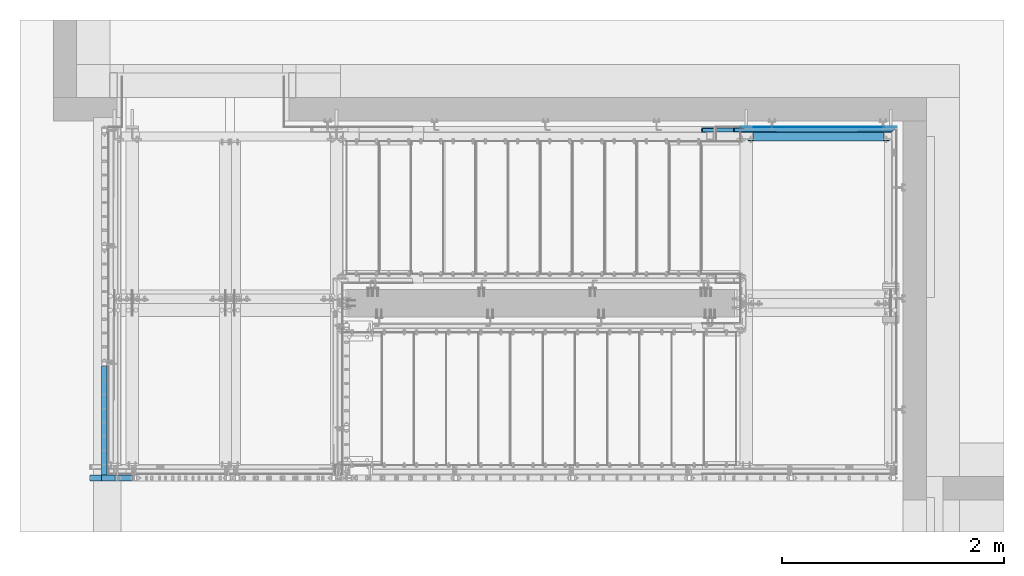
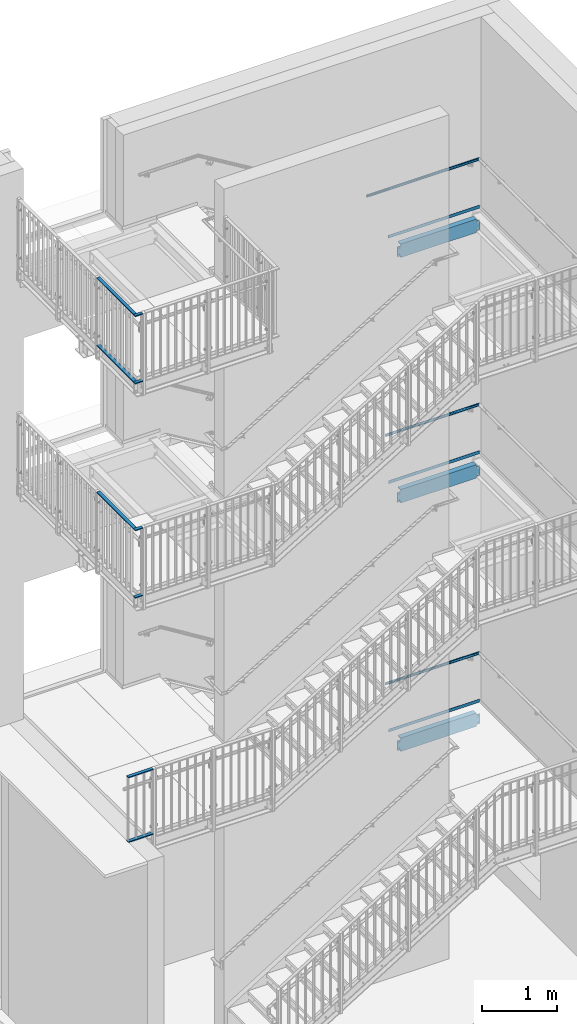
# One storey, part 39 of 410: 18 beams, 24 openings.
"""IFC2X3 building model written with IfcOpenShell, lengths in millimetres."""

from ifc_helpers import new_model, entity, si_unit, converted_unit, point, frame, frame_2d, origin, origin_with_axes, origin_2d, origin_2d_with_axis, place, context, project, spatial, circle_curve, line_curve, trimmed, segment, composite_curve, rectangle, circle, hollow_circle, u_section, outline, extrude, clip, halfspace, material, element, save


model = new_model("IFC2X3")

# Units and contexts
model_context = context("Model", 3, precision=1e-09, world=origin_with_axes())
ifc_project = project(units=[si_unit("LENGTHUNIT", "METRE", prefix="MILLI"), si_unit("AREAUNIT", "SQUARE_METRE"), si_unit("VOLUMEUNIT", "CUBIC_METRE"), converted_unit("PLANEANGLEUNIT", "DEGREE", entity("IfcPlaneAngleMeasure", 0.01745329), si_unit("PLANEANGLEUNIT", "RADIAN"), dimensions=[0, 0, 0, 0, 0, 0, 0])], contexts=[model_context])

# Site, building, storey
site_placement = place(None, origin_with_axes())
site = spatial("IfcSite", under=ifc_project, at=site_placement, Name="mKR Teilneubau & Sanierung BA1 - Ostfildern", CompositionType="ELEMENT")
building_placement = place(site_placement, origin_with_axes())
building = spatial("IfcBuilding", under=site, at=building_placement, Name="Struktur 1", CompositionType="ELEMENT")
storey_placement = place(building_placement, origin_with_axes())
storey = spatial("IfcBuildingStorey", under=building, at=storey_placement, Name="Default Storey", CompositionType="ELEMENT", Elevation=0.0)

# Beam, openings
ifc_material = material(Name="S235JR")
beam_1_placement = place(None, frame((3167.051468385, 18461.399999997, 1743.0434785), z_axis=(1.0, 0.0, 0.0), x_axis=(0.0, 1.0, 0.0)))
beam_1 = element("IfcBeam", 1, at=beam_1_placement, inside=storey, material=ifc_material, Name="-", ObjectType="-", context=model_context, shape_type="Clipping", body=[
    clip(extrude(u_section(Depth=220.0, FlangeWidth=80.0, WebThickness=9.0, FlangeThickness=12.5, FilletRadius=12.5, EdgeRadius=6.0, FlangeSlope=4.574, at=frame_2d((18.6, 0.0))), origin(), (0.0, 0.0, -1.0), 1501.146999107), halfspace(frame((-18461.399999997, -1743.0434785, -1274.099), z_axis=(0.0, 0.0, 1.0), x_axis=(1.0, 0.0, 0.0)), True)),
])
opening_1_placement = place(beam_1_placement, frame((-1481.4, 80.000000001, -1227.05), z_axis=(1.0, 0.0, 0.0), x_axis=(0.0, 0.0, -1.0)))
element("IfcOpeningElement", 2, at=opening_1_placement, cuts=beam_1, ObjectType="Opening", context=model_context, shape_type="SweptSolid", body=[
    extrude(outline(composite_curve([segment(trimmed(line_curve((47.85, 0.0), (0.0, 1.0), 30.799999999), [point((47.85, 0.0))], [point((47.85, 30.799999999))], True, "CARTESIAN"), True, "CONTINUOUS"), segment(trimmed(line_curve((47.85, 30.799999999), (-1.0, 0.0), 52.85), [point((47.85, 30.799999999))], [point((-5.0, 30.799999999))], True, "CARTESIAN"), True, "CONTINUOUS"), segment(trimmed(line_curve((-5.0, 30.799999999), (0.0, -1.0), 25.799999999), [point((-5.0, 30.799999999))], [point((-5.0, 5.0))], True, "CARTESIAN"), True, "CONTINUOUS"), segment(trimmed(circle_curve(frame_2d((0.0, 5.0), x_axis=(1.0, 0.0)), 5.0), [point((-5.0, 5.0))], [point((0.0, 0.0))], True, "CARTESIAN"), True, "CONTINUOUS"), segment(trimmed(line_curve((0.0, 0.0), (1.0, 0.0), 47.85), [point((0.0, 0.0))], [point((47.85, 0.0))], True, "CARTESIAN"), True, "CONTINUOUS")], self_intersect=False)), origin(), (0.0, 0.0, 1.0), 3000.0),
])
opening_2_placement = place(beam_1_placement, frame((1518.6, -79.999999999, -1227.05), z_axis=(-1.0, 0.0, 0.0), x_axis=(0.0, 0.0, 1.0)))
element("IfcOpeningElement", 3, at=opening_2_placement, cuts=beam_1, ObjectType="Opening", context=model_context, shape_type="SweptSolid", body=[
    extrude(outline(composite_curve([segment(trimmed(line_curve((-47.85, 0.0), (0.0, -1.0), 30.800000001), [point((-47.85, 0.0))], [point((-47.85, -30.800000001))], True, "CARTESIAN"), True, "CONTINUOUS"), segment(trimmed(line_curve((-47.85, -30.800000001), (1.0, 0.0), 52.85), [point((-47.85, -30.800000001))], [point((5.0, -30.800000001))], True, "CARTESIAN"), True, "CONTINUOUS"), segment(trimmed(line_curve((5.0, -30.800000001), (0.0, 1.0), 25.800000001), [point((5.0, -30.800000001))], [point((5.0, -5.0))], True, "CARTESIAN"), True, "CONTINUOUS"), segment(trimmed(circle_curve(frame_2d((0.0, -5.0), x_axis=(1.0, 0.0)), 5.0), [point((5.0, -5.0))], [point((0.0, 0.0))], True, "CARTESIAN"), True, "CONTINUOUS"), segment(trimmed(line_curve((0.0, 0.0), (-1.0, 0.0), 47.85), [point((0.0, 0.0))], [point((-47.85, 0.0))], True, "CARTESIAN"), True, "CONTINUOUS")], self_intersect=False)), origin(), (0.0, 0.0, 1.0), 3000.0),
])
opening_3_placement = place(beam_1_placement, frame((-121.5, 110.0, 0.0), z_axis=(1.0, 0.0, 0.0), x_axis=(0.0, 0.0, -1.0)))
element("IfcOpeningElement", 4, at=opening_3_placement, cuts=beam_1, ObjectType="Opening", context=model_context, shape_type="SweptSolid", body=[
    extrude(outline(composite_curve([segment(trimmed(circle_curve(frame_2d((-27.032911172, -244.269332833), x_axis=(1.0, 0.0)), 5.0), [point((-32.032911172, -244.269332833))], [point((-27.032911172, -249.269332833))], True, "CARTESIAN"), True, "CONTINUOUS"), segment(trimmed(line_curve((-27.032911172, -249.269332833), (1.0, 0.0), 74.083911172), [point((-27.032911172, -249.269332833))], [point((47.051, -249.269332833))], True, "CARTESIAN"), True, "CONTINUOUS"), segment(trimmed(circle_curve(frame_2d((47.051, -244.269332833), x_axis=(1.0, 0.0)), 5.0), [point((47.051, -249.269332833))], [point((52.051, -244.269332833))], True, "CARTESIAN"), True, "CONTINUOUS"), segment(trimmed(line_curve((52.051, -244.269332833), (0.0, 1.0), 49.270332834), [point((52.051, -244.269332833))], [point((52.051, -194.998999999))], True, "CARTESIAN"), True, "CONTINUOUS"), segment(trimmed(circle_curve(frame_2d((47.051, -194.998999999), x_axis=(1.0, 0.0)), 5.0), [point((52.051, -194.998999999))], [point((47.051, -189.998999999))], True, "CARTESIAN"), True, "CONTINUOUS"), segment(trimmed(line_curve((47.051, -189.998999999), (-1.0, 0.0), 74.083911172), [point((47.051, -189.998999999))], [point((-27.032911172, -189.998999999))], True, "CARTESIAN"), True, "CONTINUOUS"), segment(trimmed(circle_curve(frame_2d((-27.032911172, -194.998999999), x_axis=(1.0, 0.0)), 5.0), [point((-27.032911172, -189.998999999))], [point((-32.032911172, -194.998999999))], True, "CARTESIAN"), True, "CONTINUOUS"), segment(trimmed(line_curve((-32.032911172, -194.998999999), (0.0, -1.0), 49.270332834), [point((-32.032911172, -194.998999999))], [point((-32.032911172, -244.269332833))], True, "CARTESIAN"), True, "CONTINUOUS")], self_intersect=False)), origin(), (0.0, 0.0, 1.0), 280.2),
])
opening_4_placement = place(beam_1_placement, frame((-121.5, 110.0, 0.0), z_axis=(1.0, 0.0, 0.0), x_axis=(0.0, 0.0, -1.0)))
element("IfcOpeningElement", 5, at=opening_4_placement, cuts=beam_1, ObjectType="Opening", context=model_context, shape_type="SweptSolid", body=[
    extrude(outline(composite_curve([segment(trimmed(circle_curve(frame_2d((-22.288575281, -25.000999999), x_axis=(1.0, 0.0)), 5.0), [point((-27.288575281, -25.000999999))], [point((-22.288575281, -30.000999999))], True, "CARTESIAN"), True, "CONTINUOUS"), segment(trimmed(line_curve((-22.288575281, -30.000999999), (1.0, 0.0), 69.339575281), [point((-22.288575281, -30.000999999))], [point((47.051, -30.000999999))], True, "CARTESIAN"), True, "CONTINUOUS"), segment(trimmed(circle_curve(frame_2d((47.051, -25.000999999), x_axis=(1.0, 0.0)), 5.0), [point((47.051, -30.000999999))], [point((52.051, -25.000999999))], True, "CARTESIAN"), True, "CONTINUOUS"), segment(trimmed(line_curve((52.051, -25.000999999), (0.0, 1.0), 50.889831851), [point((52.051, -25.000999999))], [point((52.051, 25.888831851))], True, "CARTESIAN"), True, "CONTINUOUS"), segment(trimmed(circle_curve(frame_2d((47.051, 25.888831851), x_axis=(1.0, 0.0)), 5.0), [point((52.051, 25.888831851))], [point((47.051, 30.888831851))], True, "CARTESIAN"), True, "CONTINUOUS"), segment(trimmed(line_curve((47.051, 30.888831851), (-1.0, 0.0), 69.339575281), [point((47.051, 30.888831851))], [point((-22.288575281, 30.888831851))], True, "CARTESIAN"), True, "CONTINUOUS"), segment(trimmed(circle_curve(frame_2d((-22.288575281, 25.888831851), x_axis=(1.0, 0.0)), 5.0), [point((-22.288575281, 30.888831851))], [point((-27.288575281, 25.888831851))], True, "CARTESIAN"), True, "CONTINUOUS"), segment(trimmed(line_curve((-27.288575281, 25.888831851), (0.0, -1.0), 50.889831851), [point((-27.288575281, 25.888831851))], [point((-27.288575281, -25.000999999))], True, "CARTESIAN"), True, "CONTINUOUS")], self_intersect=False)), origin(), (0.0, 0.0, 1.0), 280.2),
])
opening_5_placement = place(beam_1_placement, frame((-11.9, -50.0, -1252.101), z_axis=(1.0, 0.0, 0.0), x_axis=(0.0, 1.0, 0.0)))
element("IfcOpeningElement", 6, at=opening_5_placement, cuts=beam_1, ObjectType="Opening", context=model_context, shape_type="SweptSolid", body=[
    extrude(circle(Radius=9.001, at=frame_2d((0.0, 9.001), x_axis=(1.0, 0.0))), origin(), (0.0, 0.0, -1.0), 10.0),
])
opening_6_placement = place(beam_1_placement, frame((-11.9, 50.0, -1252.101), z_axis=(1.0, 0.0, 0.0), x_axis=(0.0, 1.0, 0.0)))
element("IfcOpeningElement", 7, at=opening_6_placement, cuts=beam_1, ObjectType="Opening", context=model_context, shape_type="SweptSolid", body=[
    extrude(circle(Radius=9.001, at=frame_2d((0.0, 9.001), x_axis=(1.0, 0.0))), origin(), (0.0, 0.0, -1.0), 10.0),
])
opening_7_placement = place(beam_1_placement, frame((-11.9, 50.0, -31.0), z_axis=(-1.0, 0.0, 0.0), x_axis=(0.0, 0.0, -1.0)))
element("IfcOpeningElement", 8, at=opening_7_placement, cuts=beam_1, ObjectType="Opening", context=model_context, shape_type="SweptSolid", body=[
    extrude(circle(Radius=9.001, at=frame_2d((0.0, 100.0), x_axis=(1.0, 0.0))), origin(), (0.0, 0.0, 1.0), 10.0),
])
opening_8_placement = place(beam_1_placement, frame((-11.9, 50.0, -31.0), z_axis=(-1.0, 0.0, 0.0), x_axis=(0.0, 0.0, -1.0)))
element("IfcOpeningElement", 9, at=opening_8_placement, cuts=beam_1, ObjectType="Opening", context=model_context, shape_type="SweptSolid", body=[
    extrude(circle(Radius=9.001, at=origin_2d_with_axis()), origin(), (0.0, 0.0, 1.0), 10.0),
])

beam_2_placement = place(None, frame((3167.051468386, 18461.399999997, -2315.6), z_axis=(1.0, 0.0, 0.0), x_axis=(0.0, 1.0, 0.0)))
beam_2 = element("IfcBeam", 10, at=beam_2_placement, inside=storey, material=ifc_material, Name="-", ObjectType="-", context=model_context, shape_type="Clipping", body=[
    clip(extrude(u_section(Depth=220.0, FlangeWidth=80.0, WebThickness=9.0, FlangeThickness=12.5, FilletRadius=12.5, EdgeRadius=6.0, FlangeSlope=4.574, at=frame_2d((18.6, 0.0))), origin(), (0.0, 0.0, -1.0), 1501.146999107), halfspace(frame((-18461.399999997, 2315.6, -1274.099), z_axis=(0.0, 0.0, 1.0), x_axis=(1.0, 0.0, 0.0)), True)),
])
opening_9_placement = place(beam_2_placement, frame((-1481.4, 80.000000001, -1227.05), z_axis=(1.0, 0.0, 0.0), x_axis=(0.0, 0.0, -1.0)))
element("IfcOpeningElement", 11, at=opening_9_placement, cuts=beam_2, ObjectType="Opening", context=model_context, shape_type="SweptSolid", body=[
    extrude(outline(composite_curve([segment(trimmed(line_curve((47.85, 0.0), (0.0, 1.0), 30.799999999), [point((47.85, 0.0))], [point((47.85, 30.799999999))], True, "CARTESIAN"), True, "CONTINUOUS"), segment(trimmed(line_curve((47.85, 30.799999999), (-1.0, 0.0), 52.85), [point((47.85, 30.799999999))], [point((-5.0, 30.799999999))], True, "CARTESIAN"), True, "CONTINUOUS"), segment(trimmed(line_curve((-5.0, 30.799999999), (0.0, -1.0), 25.799999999), [point((-5.0, 30.799999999))], [point((-5.0, 5.0))], True, "CARTESIAN"), True, "CONTINUOUS"), segment(trimmed(circle_curve(frame_2d((0.0, 5.0), x_axis=(1.0, 0.0)), 5.0), [point((-5.0, 5.0))], [point((0.0, 0.0))], True, "CARTESIAN"), True, "CONTINUOUS"), segment(trimmed(line_curve((0.0, 0.0), (1.0, 0.0), 47.85), [point((0.0, 0.0))], [point((47.85, 0.0))], True, "CARTESIAN"), True, "CONTINUOUS")], self_intersect=False)), origin(), (0.0, 0.0, 1.0), 3000.0),
])
opening_10_placement = place(beam_2_placement, frame((1518.6, -79.999999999, -1227.05), z_axis=(-1.0, 0.0, 0.0), x_axis=(0.0, 0.0, 1.0)))
element("IfcOpeningElement", 12, at=opening_10_placement, cuts=beam_2, ObjectType="Opening", context=model_context, shape_type="SweptSolid", body=[
    extrude(outline(composite_curve([segment(trimmed(line_curve((-47.85, 0.0), (0.0, -1.0), 30.800000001), [point((-47.85, 0.0))], [point((-47.85, -30.800000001))], True, "CARTESIAN"), True, "CONTINUOUS"), segment(trimmed(line_curve((-47.85, -30.800000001), (1.0, 0.0), 52.85), [point((-47.85, -30.800000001))], [point((5.0, -30.800000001))], True, "CARTESIAN"), True, "CONTINUOUS"), segment(trimmed(line_curve((5.0, -30.800000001), (0.0, 1.0), 25.800000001), [point((5.0, -30.800000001))], [point((5.0, -5.0))], True, "CARTESIAN"), True, "CONTINUOUS"), segment(trimmed(circle_curve(frame_2d((0.0, -5.0), x_axis=(1.0, 0.0)), 5.0), [point((5.0, -5.0))], [point((0.0, 0.0))], True, "CARTESIAN"), True, "CONTINUOUS"), segment(trimmed(line_curve((0.0, 0.0), (-1.0, 0.0), 47.85), [point((0.0, 0.0))], [point((-47.85, 0.0))], True, "CARTESIAN"), True, "CONTINUOUS")], self_intersect=False)), origin(), (0.0, 0.0, 1.0), 3000.0),
])
opening_11_placement = place(beam_2_placement, frame((-121.5, 110.0, 0.0), z_axis=(1.0, 0.0, 0.0), x_axis=(0.0, 0.0, -1.0)))
element("IfcOpeningElement", 13, at=opening_11_placement, cuts=beam_2, ObjectType="Opening", context=model_context, shape_type="SweptSolid", body=[
    extrude(outline(composite_curve([segment(trimmed(circle_curve(frame_2d((-27.032911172, -244.269332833), x_axis=(1.0, 0.0)), 5.0), [point((-32.032911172, -244.269332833))], [point((-27.032911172, -249.269332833))], True, "CARTESIAN"), True, "CONTINUOUS"), segment(trimmed(line_curve((-27.032911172, -249.269332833), (1.0, 0.0), 74.083911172), [point((-27.032911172, -249.269332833))], [point((47.051, -249.269332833))], True, "CARTESIAN"), True, "CONTINUOUS"), segment(trimmed(circle_curve(frame_2d((47.051, -244.269332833), x_axis=(1.0, 0.0)), 5.0), [point((47.051, -249.269332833))], [point((52.051, -244.269332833))], True, "CARTESIAN"), True, "CONTINUOUS"), segment(trimmed(line_curve((52.051, -244.269332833), (0.0, 1.0), 49.270332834), [point((52.051, -244.269332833))], [point((52.051, -194.998999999))], True, "CARTESIAN"), True, "CONTINUOUS"), segment(trimmed(circle_curve(frame_2d((47.051, -194.998999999), x_axis=(1.0, 0.0)), 5.0), [point((52.051, -194.998999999))], [point((47.051, -189.998999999))], True, "CARTESIAN"), True, "CONTINUOUS"), segment(trimmed(line_curve((47.051, -189.998999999), (-1.0, 0.0), 74.083911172), [point((47.051, -189.998999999))], [point((-27.032911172, -189.998999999))], True, "CARTESIAN"), True, "CONTINUOUS"), segment(trimmed(circle_curve(frame_2d((-27.032911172, -194.998999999), x_axis=(1.0, 0.0)), 5.0), [point((-27.032911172, -189.998999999))], [point((-32.032911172, -194.998999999))], True, "CARTESIAN"), True, "CONTINUOUS"), segment(trimmed(line_curve((-32.032911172, -194.998999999), (0.0, -1.0), 49.270332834), [point((-32.032911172, -194.998999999))], [point((-32.032911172, -244.269332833))], True, "CARTESIAN"), True, "CONTINUOUS")], self_intersect=False)), origin(), (0.0, 0.0, 1.0), 280.2),
])
opening_12_placement = place(beam_2_placement, frame((-121.5, 110.0, 0.0), z_axis=(1.0, 0.0, 0.0), x_axis=(0.0, 0.0, -1.0)))
element("IfcOpeningElement", 14, at=opening_12_placement, cuts=beam_2, ObjectType="Opening", context=model_context, shape_type="SweptSolid", body=[
    extrude(outline(composite_curve([segment(trimmed(circle_curve(frame_2d((-22.288575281, -25.000999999), x_axis=(1.0, 0.0)), 5.0), [point((-27.288575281, -25.000999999))], [point((-22.288575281, -30.000999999))], True, "CARTESIAN"), True, "CONTINUOUS"), segment(trimmed(line_curve((-22.288575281, -30.000999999), (1.0, 0.0), 69.339575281), [point((-22.288575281, -30.000999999))], [point((47.051, -30.000999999))], True, "CARTESIAN"), True, "CONTINUOUS"), segment(trimmed(circle_curve(frame_2d((47.051, -25.000999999), x_axis=(1.0, 0.0)), 5.0), [point((47.051, -30.000999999))], [point((52.051, -25.000999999))], True, "CARTESIAN"), True, "CONTINUOUS"), segment(trimmed(line_curve((52.051, -25.000999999), (0.0, 1.0), 50.889831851), [point((52.051, -25.000999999))], [point((52.051, 25.888831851))], True, "CARTESIAN"), True, "CONTINUOUS"), segment(trimmed(circle_curve(frame_2d((47.051, 25.888831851), x_axis=(1.0, 0.0)), 5.0), [point((52.051, 25.888831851))], [point((47.051, 30.888831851))], True, "CARTESIAN"), True, "CONTINUOUS"), segment(trimmed(line_curve((47.051, 30.888831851), (-1.0, 0.0), 69.339575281), [point((47.051, 30.888831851))], [point((-22.288575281, 30.888831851))], True, "CARTESIAN"), True, "CONTINUOUS"), segment(trimmed(circle_curve(frame_2d((-22.288575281, 25.888831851), x_axis=(1.0, 0.0)), 5.0), [point((-22.288575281, 30.888831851))], [point((-27.288575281, 25.888831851))], True, "CARTESIAN"), True, "CONTINUOUS"), segment(trimmed(line_curve((-27.288575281, 25.888831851), (0.0, -1.0), 50.889831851), [point((-27.288575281, 25.888831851))], [point((-27.288575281, -25.000999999))], True, "CARTESIAN"), True, "CONTINUOUS")], self_intersect=False)), origin(), (0.0, 0.0, 1.0), 280.2),
])
opening_13_placement = place(beam_2_placement, frame((-11.9, 50.0, -31.0), z_axis=(-1.0, 0.0, 0.0), x_axis=(0.0, 0.0, -1.0)))
element("IfcOpeningElement", 15, at=opening_13_placement, cuts=beam_2, ObjectType="Opening", context=model_context, shape_type="SweptSolid", body=[
    extrude(circle(Radius=9.001, at=frame_2d((0.0, 100.0), x_axis=(1.0, 0.0))), origin(), (0.0, 0.0, 1.0), 10.0),
])
opening_14_placement = place(beam_2_placement, frame((-11.9, 50.0, -31.0), z_axis=(-1.0, 0.0, 0.0), x_axis=(0.0, 0.0, -1.0)))
element("IfcOpeningElement", 16, at=opening_14_placement, cuts=beam_2, ObjectType="Opening", context=model_context, shape_type="SweptSolid", body=[
    extrude(circle(Radius=9.001, at=origin_2d_with_axis()), origin(), (0.0, 0.0, 1.0), 10.0),
])
opening_15_placement = place(beam_2_placement, frame((-11.9, -50.0, -1252.101), z_axis=(1.0, 0.0, 0.0), x_axis=(0.0, 1.0, 0.0)))
element("IfcOpeningElement", 17, at=opening_15_placement, cuts=beam_2, ObjectType="Opening", context=model_context, shape_type="SweptSolid", body=[
    extrude(circle(Radius=9.001, at=frame_2d((0.0, 9.001), x_axis=(1.0, 0.0))), origin(), (0.0, 0.0, -1.0), 10.0),
])
opening_16_placement = place(beam_2_placement, frame((-11.9, 50.0, -1252.101), z_axis=(1.0, 0.0, 0.0), x_axis=(0.0, 1.0, 0.0)))
element("IfcOpeningElement", 18, at=opening_16_placement, cuts=beam_2, ObjectType="Opening", context=model_context, shape_type="SweptSolid", body=[
    extrude(circle(Radius=9.001, at=frame_2d((0.0, 9.001), x_axis=(1.0, 0.0))), origin(), (0.0, 0.0, -1.0), 10.0),
])

# Beams
for number, where, z_axis, x_axis in (
    (19, (-3805.49853167, 15405.999999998, 5092.5), (-1.0, 0.0, 0.0), (0.0, 0.0, -1.0)),
    (20, (-3924.9485317, 15405.999999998, 3992.5), (1.0, 0.0, 0.0), (0.0, 0.0, 1.0)),
    (21, (-3805.49853167, 15405.999999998, 8592.5), (-1.0, 0.0, 0.0), (0.0, 0.0, -1.0)),
    (22, (-3924.9485317, 15405.999999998, 7492.5), (1.0, 0.0, 0.0), (0.0, 0.0, 1.0)),
):
    element("IfcBeam", number, at=place(None, frame(where, z_axis=z_axis, x_axis=x_axis)), inside=storey, material=ifc_material, Name="-", ObjectType="-", context=model_context, shape_type="SweptSolid", body=[
        extrude(rectangle(XDim=15.0, YDim=50.0, at=origin_2d()), origin(), (0.0, 0.0, 1.0), 119.450000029),
    ])
for number, where, z_axis, x_axis in (
    (23, (-3899.9485317, 16414.499999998, 8592.500007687), (0.0, 1.0, 0.0), (0.0, 0.0, -1.0)),
    (24, (-3899.9485317, 15430.999999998, 7492.500000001), (0.0, -1.0, 0.0), (0.0, 0.0, 1.0)),
):
    element("IfcBeam", number, at=place(None, frame(where, z_axis=z_axis, x_axis=x_axis)), inside=storey, material=ifc_material, Name="-", ObjectType="-", context=model_context, shape_type="SweptSolid", body=[
        extrude(rectangle(XDim=15.0, YDim=50.0, at=origin_2d()), origin(), (0.0, 0.0, -1.0), 983.5),
    ])
for number, where, z_axis, x_axis in (
    (25, (-4030.78424607, 15405.999999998, 1092.5), (-1.0, 0.0, 0.0), (0.0, 0.0, -1.0)),
    (26, (-3645.49853167, 15405.999999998, 37.5), (1.0, 0.0, 0.0), (0.0, 0.0, 1.0)),
):
    element("IfcBeam", number, at=place(None, frame(where, z_axis=z_axis, x_axis=x_axis)), inside=storey, material=ifc_material, Name="-", ObjectType="-", context=model_context, shape_type="SweptSolid", body=[
        extrude(rectangle(XDim=15.0, YDim=50.0, at=origin_2d()), origin(), (0.0, 0.0, -1.0), 385.2857144),
    ])

# Beam, openings
beam_3_placement = place(None, frame((3167.051468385, 18461.399999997, 5755.0), z_axis=(1.0, 0.0, 0.0), x_axis=(0.0, 1.0, 0.0)))
beam_3 = element("IfcBeam", 27, at=beam_3_placement, inside=storey, material=ifc_material, Name="-", ObjectType="-", context=model_context, shape_type="Clipping", body=[
    clip(extrude(u_section(Depth=220.0, FlangeWidth=80.0, WebThickness=9.0, FlangeThickness=12.5, FilletRadius=12.5, EdgeRadius=6.0, FlangeSlope=4.574, at=frame_2d((18.6, 0.0))), origin(), (0.0, 0.0, -1.0), 1501.146999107), halfspace(frame((-18461.399999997, -5755.0, -1274.099), z_axis=(0.0, 0.0, 1.0), x_axis=(1.0, 0.0, 0.0)), True)),
])
opening_17_placement = place(beam_3_placement, frame((-1481.4, 80.000000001, -1227.05), z_axis=(1.0, 0.0, 0.0), x_axis=(0.0, 0.0, -1.0)))
element("IfcOpeningElement", 28, at=opening_17_placement, cuts=beam_3, ObjectType="Opening", context=model_context, shape_type="SweptSolid", body=[
    extrude(outline(composite_curve([segment(trimmed(line_curve((47.85, 0.0), (0.0, 1.0), 30.799999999), [point((47.85, 0.0))], [point((47.85, 30.799999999))], True, "CARTESIAN"), True, "CONTINUOUS"), segment(trimmed(line_curve((47.85, 30.799999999), (-1.0, 0.0), 52.85), [point((47.85, 30.799999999))], [point((-5.0, 30.799999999))], True, "CARTESIAN"), True, "CONTINUOUS"), segment(trimmed(line_curve((-5.0, 30.799999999), (0.0, -1.0), 25.799999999), [point((-5.0, 30.799999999))], [point((-5.0, 5.0))], True, "CARTESIAN"), True, "CONTINUOUS"), segment(trimmed(circle_curve(frame_2d((0.0, 5.0), x_axis=(1.0, 0.0)), 5.0), [point((-5.0, 5.0))], [point((0.0, 0.0))], True, "CARTESIAN"), True, "CONTINUOUS"), segment(trimmed(line_curve((0.0, 0.0), (1.0, 0.0), 47.85), [point((0.0, 0.0))], [point((47.85, 0.0))], True, "CARTESIAN"), True, "CONTINUOUS")], self_intersect=False)), origin(), (0.0, 0.0, 1.0), 3000.0),
])
opening_18_placement = place(beam_3_placement, frame((1518.6, -79.999999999, -1227.05), z_axis=(-1.0, 0.0, 0.0), x_axis=(0.0, 0.0, 1.0)))
element("IfcOpeningElement", 29, at=opening_18_placement, cuts=beam_3, ObjectType="Opening", context=model_context, shape_type="SweptSolid", body=[
    extrude(outline(composite_curve([segment(trimmed(line_curve((-47.85, 0.0), (0.0, -1.0), 30.800000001), [point((-47.85, 0.0))], [point((-47.85, -30.800000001))], True, "CARTESIAN"), True, "CONTINUOUS"), segment(trimmed(line_curve((-47.85, -30.800000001), (1.0, 0.0), 52.85), [point((-47.85, -30.800000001))], [point((5.0, -30.800000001))], True, "CARTESIAN"), True, "CONTINUOUS"), segment(trimmed(line_curve((5.0, -30.800000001), (0.0, 1.0), 25.800000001), [point((5.0, -30.800000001))], [point((5.0, -5.0))], True, "CARTESIAN"), True, "CONTINUOUS"), segment(trimmed(circle_curve(frame_2d((0.0, -5.0), x_axis=(1.0, 0.0)), 5.0), [point((5.0, -5.0))], [point((0.0, 0.0))], True, "CARTESIAN"), True, "CONTINUOUS"), segment(trimmed(line_curve((0.0, 0.0), (-1.0, 0.0), 47.85), [point((0.0, 0.0))], [point((-47.85, 0.0))], True, "CARTESIAN"), True, "CONTINUOUS")], self_intersect=False)), origin(), (0.0, 0.0, 1.0), 3000.0),
])
opening_19_placement = place(beam_3_placement, frame((-121.5, 110.0, 0.0), z_axis=(1.0, 0.0, 0.0), x_axis=(0.0, 0.0, -1.0)))
element("IfcOpeningElement", 30, at=opening_19_placement, cuts=beam_3, ObjectType="Opening", context=model_context, shape_type="SweptSolid", body=[
    extrude(outline(composite_curve([segment(trimmed(circle_curve(frame_2d((-27.032911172, -244.269332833), x_axis=(1.0, 0.0)), 5.0), [point((-32.032911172, -244.269332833))], [point((-27.032911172, -249.269332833))], True, "CARTESIAN"), True, "CONTINUOUS"), segment(trimmed(line_curve((-27.032911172, -249.269332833), (1.0, 0.0), 74.083911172), [point((-27.032911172, -249.269332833))], [point((47.051, -249.269332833))], True, "CARTESIAN"), True, "CONTINUOUS"), segment(trimmed(circle_curve(frame_2d((47.051, -244.269332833), x_axis=(1.0, 0.0)), 5.0), [point((47.051, -249.269332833))], [point((52.051, -244.269332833))], True, "CARTESIAN"), True, "CONTINUOUS"), segment(trimmed(line_curve((52.051, -244.269332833), (0.0, 1.0), 49.270332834), [point((52.051, -244.269332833))], [point((52.051, -194.998999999))], True, "CARTESIAN"), True, "CONTINUOUS"), segment(trimmed(circle_curve(frame_2d((47.051, -194.998999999), x_axis=(1.0, 0.0)), 5.0), [point((52.051, -194.998999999))], [point((47.051, -189.998999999))], True, "CARTESIAN"), True, "CONTINUOUS"), segment(trimmed(line_curve((47.051, -189.998999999), (-1.0, 0.0), 74.083911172), [point((47.051, -189.998999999))], [point((-27.032911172, -189.998999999))], True, "CARTESIAN"), True, "CONTINUOUS"), segment(trimmed(circle_curve(frame_2d((-27.032911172, -194.998999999), x_axis=(1.0, 0.0)), 5.0), [point((-27.032911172, -189.998999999))], [point((-32.032911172, -194.998999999))], True, "CARTESIAN"), True, "CONTINUOUS"), segment(trimmed(line_curve((-32.032911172, -194.998999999), (0.0, -1.0), 49.270332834), [point((-32.032911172, -194.998999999))], [point((-32.032911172, -244.269332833))], True, "CARTESIAN"), True, "CONTINUOUS")], self_intersect=False)), origin(), (0.0, 0.0, 1.0), 280.2),
])
opening_20_placement = place(beam_3_placement, frame((-121.5, 110.0, 0.0), z_axis=(1.0, 0.0, 0.0), x_axis=(0.0, 0.0, -1.0)))
element("IfcOpeningElement", 31, at=opening_20_placement, cuts=beam_3, ObjectType="Opening", context=model_context, shape_type="SweptSolid", body=[
    extrude(outline(composite_curve([segment(trimmed(circle_curve(frame_2d((-22.288575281, -25.000999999), x_axis=(1.0, 0.0)), 5.0), [point((-27.288575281, -25.000999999))], [point((-22.288575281, -30.000999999))], True, "CARTESIAN"), True, "CONTINUOUS"), segment(trimmed(line_curve((-22.288575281, -30.000999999), (1.0, 0.0), 69.339575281), [point((-22.288575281, -30.000999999))], [point((47.051, -30.000999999))], True, "CARTESIAN"), True, "CONTINUOUS"), segment(trimmed(circle_curve(frame_2d((47.051, -25.000999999), x_axis=(1.0, 0.0)), 5.0), [point((47.051, -30.000999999))], [point((52.051, -25.000999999))], True, "CARTESIAN"), True, "CONTINUOUS"), segment(trimmed(line_curve((52.051, -25.000999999), (0.0, 1.0), 50.889831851), [point((52.051, -25.000999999))], [point((52.051, 25.888831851))], True, "CARTESIAN"), True, "CONTINUOUS"), segment(trimmed(circle_curve(frame_2d((47.051, 25.888831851), x_axis=(1.0, 0.0)), 5.0), [point((52.051, 25.888831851))], [point((47.051, 30.888831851))], True, "CARTESIAN"), True, "CONTINUOUS"), segment(trimmed(line_curve((47.051, 30.888831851), (-1.0, 0.0), 69.339575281), [point((47.051, 30.888831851))], [point((-22.288575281, 30.888831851))], True, "CARTESIAN"), True, "CONTINUOUS"), segment(trimmed(circle_curve(frame_2d((-22.288575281, 25.888831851), x_axis=(1.0, 0.0)), 5.0), [point((-22.288575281, 30.888831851))], [point((-27.288575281, 25.888831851))], True, "CARTESIAN"), True, "CONTINUOUS"), segment(trimmed(line_curve((-27.288575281, 25.888831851), (0.0, -1.0), 50.889831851), [point((-27.288575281, 25.888831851))], [point((-27.288575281, -25.000999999))], True, "CARTESIAN"), True, "CONTINUOUS")], self_intersect=False)), origin(), (0.0, 0.0, 1.0), 280.2),
])
opening_21_placement = place(beam_3_placement, frame((-11.9, -50.0, -1252.101), z_axis=(1.0, 0.0, 0.0), x_axis=(0.0, 1.0, 0.0)))
element("IfcOpeningElement", 32, at=opening_21_placement, cuts=beam_3, ObjectType="Opening", context=model_context, shape_type="SweptSolid", body=[
    extrude(circle(Radius=9.001, at=frame_2d((0.0, 9.001), x_axis=(1.0, 0.0))), origin(), (0.0, 0.0, -1.0), 10.0),
])
opening_22_placement = place(beam_3_placement, frame((-11.9, 50.0, -1252.101), z_axis=(1.0, 0.0, 0.0), x_axis=(0.0, 1.0, 0.0)))
element("IfcOpeningElement", 33, at=opening_22_placement, cuts=beam_3, ObjectType="Opening", context=model_context, shape_type="SweptSolid", body=[
    extrude(circle(Radius=9.001, at=frame_2d((0.0, 9.001), x_axis=(1.0, 0.0))), origin(), (0.0, 0.0, -1.0), 10.0),
])
opening_23_placement = place(beam_3_placement, frame((-11.9, 50.0, -31.0), z_axis=(-1.0, 0.0, 0.0), x_axis=(0.0, 0.0, -1.0)))
element("IfcOpeningElement", 34, at=opening_23_placement, cuts=beam_3, ObjectType="Opening", context=model_context, shape_type="SweptSolid", body=[
    extrude(circle(Radius=9.001, at=frame_2d((0.0, 100.0), x_axis=(1.0, 0.0))), origin(), (0.0, 0.0, 1.0), 10.0),
])
opening_24_placement = place(beam_3_placement, frame((-11.9, 50.0, -31.0), z_axis=(-1.0, 0.0, 0.0), x_axis=(0.0, 0.0, -1.0)))
element("IfcOpeningElement", 35, at=opening_24_placement, cuts=beam_3, ObjectType="Opening", context=model_context, shape_type="SweptSolid", body=[
    extrude(circle(Radius=9.001, at=origin_2d_with_axis()), origin(), (0.0, 0.0, 1.0), 10.0),
])

# Beams
for number, where, z_axis, x_axis in (
    (36, (3231.001468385, 18567.999999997, 1938.0434785), (1.0, 0.0, 0.0), (0.0, 1.0, 0.0)),
    (37, (3231.001468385, 18567.999999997, -2120.6), (1.0, 0.0, 0.0), (0.0, 1.0, 0.0)),
):
    element("IfcBeam", number, at=place(None, frame(where, z_axis=z_axis, x_axis=x_axis)), inside=storey, material=ifc_material, Name="-", ObjectType="-", context=model_context, shape_type="SweptSolid", body=[
        extrude(rectangle(XDim=4.0, YDim=50.0, at=origin_2d()), origin(), (0.0, 0.0, -1.0), 1402.0),
    ])
beam_4_placement = place(None, frame((3231.001468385, 18567.999999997, 5950.0), z_axis=(1.0, 0.0, 0.0), x_axis=(0.0, 1.0, 0.0)))
element("IfcBeam", 38, at=beam_4_placement, inside=storey, material=ifc_material, Name="-", ObjectType="-", context=model_context, shape_type="SweptSolid", body=[
    extrude(rectangle(XDim=4.0, YDim=50.0, at=origin_2d()), origin(), (0.0, 0.0, -1.0), 1406.0),
])
beam_5_placement = place(None, frame((-3899.9485317, 16414.499999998, 5092.500007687), z_axis=(0.0, 1.0, 0.0), x_axis=(0.0, 0.0, -1.0)))
element("IfcBeam", 39, at=beam_5_placement, inside=storey, material=ifc_material, Name="-", ObjectType="-", context=model_context, shape_type="SweptSolid", body=[
    extrude(rectangle(XDim=15.0, YDim=50.0, at=origin_2d()), origin(), (0.0, 0.0, -1.0), 983.5),
])
beam_6_placement = place(None, frame((1447.976990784, 18539.999977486, 6753.800571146), z_axis=(-1.0, 0.0, 0.0), x_axis=(0.0, -1.0, 0.0)))
element("IfcBeam", 40, at=beam_6_placement, inside=storey, Name="-", ObjectType="-", context=model_context, shape_type="Clipping", body=[
    clip(clip(extrude(hollow_circle(Radius=21.2, WallThickness=3.2, at=origin_2d()), origin(), (0.0, 0.0, -1.0), 1804.422226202), halfspace(frame((18539.999977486, -6650.25999424, 1819.960293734), z_axis=(0.0, -0.268153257, -0.963376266), x_axis=(-1.0, 0.0, 0.0)), True)), halfspace(frame((10874.99889013, -6753.800571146, 9112.978078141), z_axis=(-0.707106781, 0.0, 0.707106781), x_axis=(0.707106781, 0.0, 0.707106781)), True)),
])
beam_7_placement = place(None, frame((3252.399216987, 18539.999999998, 2741.8434785), z_axis=(1.0, 0.0, 0.0), x_axis=(0.0, 1.0, 0.0)))
element("IfcBeam", 41, at=beam_7_placement, inside=storey, Name="-", ObjectType="-", context=model_context, shape_type="Clipping", body=[
    clip(clip(extrude(hollow_circle(Radius=21.2, WallThickness=3.2, at=origin_2d()), origin(), (0.0, 0.0, -1.0), 1514.377972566), halfspace(frame((-18539.999999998, -3001.570989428, -2314.298444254), z_axis=(0.0, -0.266827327, 0.963744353), x_axis=(1.0, 0.0, 0.0)), True)), halfspace(frame((-10874.998901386, -2741.8434785, -10917.400315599), z_axis=(0.707106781, 0.0, -0.707106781), x_axis=(-0.707106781, 0.0, -0.707106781)), True)),
])
beam_8_placement = place(None, frame((1737.826945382, 18539.999977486, -1316.799999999), z_axis=(-1.0, 0.0, 0.0), x_axis=(0.0, -1.0, 0.0)))
element("IfcBeam", 42, at=beam_8_placement, inside=storey, Name="-", ObjectType="-", context=model_context, shape_type="Clipping", body=[
    clip(clip(extrude(hollow_circle(Radius=21.2, WallThickness=3.2, at=origin_2d()), origin(), (0.0, 0.0, -1.0), 1514.572271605), halfspace(frame((18539.999977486, 754.640719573, -245.103937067), z_axis=(0.0, -0.272750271, -0.962084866), x_axis=(-1.0, 0.0, 0.0)), True)), halfspace(frame((10874.99889013, 1316.799999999, 9402.828032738), z_axis=(-0.707106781, 0.0, 0.707106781), x_axis=(0.707106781, 0.0, 0.707106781)), True)),
])

save(model, "model.ifc")
